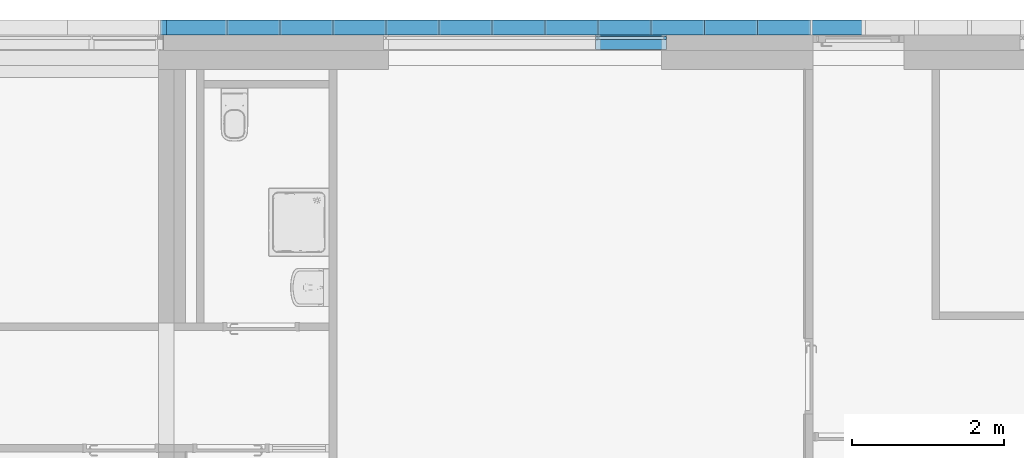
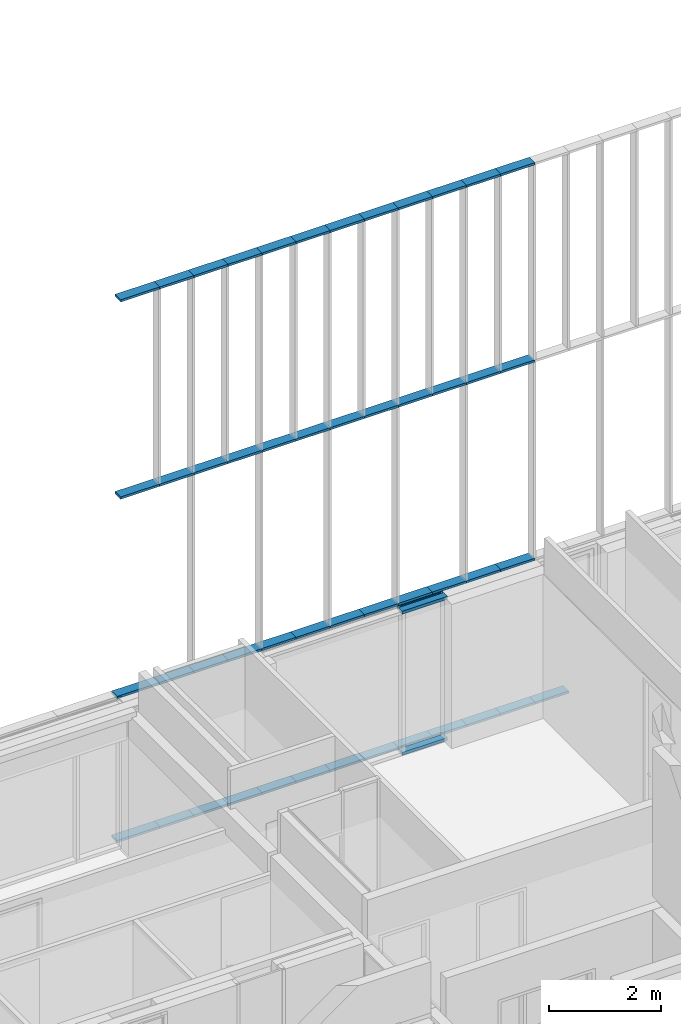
# One storey, part 40 of 240: 52 members, 2 elements without a shape of their own.
"""IFC2X3 building model written with IfcOpenShell, lengths in centimetres."""

from ifc_helpers import new_model, entity, si_unit, converted_unit, derived_unit, direction, frame, origin, origin_2d_with_axis, place, context, subcontext, project, spatial, polyline, rectangle, outline, extrude, source, transform, mapped, material, type_object, type_shapes, element, aggregate, save


model = new_model("IFC2X3")

# Units and contexts
model_context = context("Model", 3, precision=0.001, world=origin(), true_north=direction((6.12303176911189e-17, 1.0)))
body_context = subcontext(model_context, "Body", "Model", "MODEL_VIEW")
ifc_project = project(units=[si_unit("LENGTHUNIT", "METRE", prefix="CENTI"), si_unit("AREAUNIT", "SQUARE_METRE"), si_unit("VOLUMEUNIT", "CUBIC_METRE"), converted_unit("PLANEANGLEUNIT", "DEGREE", entity("IfcRatioMeasure", 0.0174532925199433), si_unit("PLANEANGLEUNIT", "RADIAN"), dimensions=[0, 0, 0, 0, 0, 0, 0]), si_unit("MASSUNIT", "GRAM", prefix="KILO"), derived_unit("MASSDENSITYUNIT", [(si_unit("MASSUNIT", "GRAM", prefix="KILO"), 1), (si_unit("LENGTHUNIT", "METRE"), -3)]), si_unit("TIMEUNIT", "SECOND"), si_unit("FREQUENCYUNIT", "HERTZ"), si_unit("THERMODYNAMICTEMPERATUREUNIT", "DEGREE_CELSIUS"), derived_unit("THERMALTRANSMITTANCEUNIT", [(si_unit("MASSUNIT", "GRAM", prefix="KILO"), 1), (si_unit("THERMODYNAMICTEMPERATUREUNIT", "KELVIN"), -1), (si_unit("TIMEUNIT", "SECOND"), -3)]), derived_unit("VOLUMETRICFLOWRATEUNIT", [(si_unit("LENGTHUNIT", "METRE"), 3), (si_unit("TIMEUNIT", "SECOND"), -1)]), si_unit("ELECTRICCURRENTUNIT", "AMPERE"), si_unit("ELECTRICVOLTAGEUNIT", "VOLT"), si_unit("POWERUNIT", "WATT"), si_unit("FORCEUNIT", "NEWTON", prefix="KILO"), si_unit("ILLUMINANCEUNIT", "LUX"), si_unit("LUMINOUSFLUXUNIT", "LUMEN"), si_unit("LUMINOUSINTENSITYUNIT", "CANDELA"), derived_unit("USERDEFINED", [(si_unit("MASSUNIT", "GRAM", prefix="KILO"), -1), (si_unit("LENGTHUNIT", "METRE"), -2), (si_unit("TIMEUNIT", "SECOND"), 3), (si_unit("LUMINOUSFLUXUNIT", "LUMEN"), 1)]), derived_unit("LINEARVELOCITYUNIT", [(si_unit("LENGTHUNIT", "METRE"), 1), (si_unit("TIMEUNIT", "SECOND"), -1)]), si_unit("PRESSUREUNIT", "PASCAL"), derived_unit("USERDEFINED", [(si_unit("LENGTHUNIT", "METRE"), -2), (si_unit("MASSUNIT", "GRAM", prefix="KILO"), 1), (si_unit("TIMEUNIT", "SECOND"), -2)])], contexts=[model_context])

# Site, building, storey
site_placement = place(None, frame((-2781.94577612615, 7442.24238424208, 0.0)))
site = spatial("IfcSite", under=ifc_project, at=site_placement, Name="Default", CompositionType="ELEMENT")
building_placement = place(site_placement, origin())
building = spatial("IfcBuilding", under=site, at=building_placement, CompositionType="ELEMENT")
storey_placement = place(building_placement, origin())
storey = spatial("IfcBuildingStorey", under=building, at=storey_placement, Name="N00 - COO", CompositionType="ELEMENT", Elevation=0.0)

# Curtain wall, members
curtain_wall_type_1 = type_object("IfcCurtainWallType", Name="Mur-rideau:07 - mur rideau trame 90 cm", PredefinedType="NOTDEFINED")
curtain_wall_1_placement = place(building_placement, origin())
curtain_wall_1 = element("IfcCurtainWall", 1, at=curtain_wall_1_placement, inside=storey, type_object=curtain_wall_type_1, Name="Mur-rideau:07 - mur rideau trame 90 cm", ObjectType="Mur-rideau:07 - mur rideau trame 90 cm")
ifc_material = material(Name="Aluminium")
member_type_1 = type_object("IfcMemberType", Name="150 x 25mm Détails", PredefinedType="MEMBER")
shared_shape_1 = source(origin(), body_context, "Body", "SweptSolid", [
    extrude(outline(polyline([(-13.3333333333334, -3.24999999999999), (0.166666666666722, -3.24999999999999), (0.166666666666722, -0.868749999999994), (3.66666666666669, -0.868749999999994), (3.66666666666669, -3.25), (5.66666666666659, -3.25), (5.66666666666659, 3.24999999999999), (3.66666666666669, 3.24999999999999), (3.66666666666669, 0.86874999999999), (0.166666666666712, 0.86874999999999), (0.166666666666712, 3.25000000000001), (-13.3333333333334, 3.25000000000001), (-13.3333333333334, -3.24999999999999)])), frame((-3.24999999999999, 1.96666666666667, -93.25000003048), z_axis=(0.0, 0.0, 1.0), x_axis=(0.0, -1.0, 0.0)), (0.0, 0.0, 1.0), 93.25000003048),
])
type_shapes(member_type_1, [shared_shape_1])
member_1_placement = place(building_placement, frame((-7852.74987760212, 26.2000000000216, 0.0), z_axis=(-1.0, 0.0, 0.0), x_axis=(0.0, 0.0, -1.0)))
member_1 = element("IfcMember", 2, at=member_1_placement, type_object=member_type_1, material=ifc_material, Name="Meneau rectangulaire:150 x 25mm Détails", ObjectType="Meneau rectangulaire:150 x 25mm Détails", context=body_context, shape_type="MappedRepresentation", body=[
    mapped(shared_shape_1, transform((0.0, 0.0, 0.0), scale=1.0)),
])
member_type_2 = type_object("IfcMemberType", Name="150 x 25mm Détails", PredefinedType="MEMBER")
shared_shape_2 = source(origin(), body_context, "Body", "SweptSolid", [
    extrude(outline(polyline([(-13.3333333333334, -3.25000000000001), (0.166666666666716, -3.25000000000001), (0.166666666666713, -0.86874999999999), (3.66666666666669, -0.86874999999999), (3.66666666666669, -3.24999999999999), (5.66666666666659, -3.24999999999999), (5.66666666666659, 3.25), (3.66666666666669, 3.25), (3.66666666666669, 0.868749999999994), (0.166666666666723, 0.868749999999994), (0.166666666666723, 3.25000000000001), (-13.3333333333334, 3.24999999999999), (-13.3333333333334, -3.25000000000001)])), frame((-3.24999999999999, 1.96666666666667, -93.2500000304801), z_axis=(0.0, 0.0, 1.0), x_axis=(0.0, -1.0, 0.0)), (0.0, 0.0, 1.0), 93.25000003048),
])
type_shapes(member_type_2, [shared_shape_2])
member_2_placement = place(building_placement, frame((-7759.49987757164, 26.2000000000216, 313.0), z_axis=(1.0, 0.0, 0.0), x_axis=(0.0, 0.0, 1.0)))
member_2 = element("IfcMember", 3, at=member_2_placement, type_object=member_type_2, material=ifc_material, Name="Meneau rectangulaire:150 x 25mm Détails", ObjectType="Meneau rectangulaire:150 x 25mm Détails", context=body_context, shape_type="MappedRepresentation", body=[
    mapped(shared_shape_2, transform((0.0, 0.0, 0.0), scale=1.0)),
])
aggregate(curtain_wall_1, [member_1, member_2])

curtain_wall_type_2 = type_object("IfcCurtainWallType", Name="Mur-rideau:Epines - 200x50mm", PredefinedType="NOTDEFINED")
curtain_wall_2_placement = place(building_placement, origin())
curtain_wall_2 = element("IfcCurtainWall", 4, at=curtain_wall_2_placement, inside=storey, type_object=curtain_wall_type_2, Name="Mur-rideau:Epines - 200x50mm", ObjectType="Mur-rideau:Epines - 200x50mm")
member_type_3 = type_object("IfcMemberType", Name="200x50 mm", PredefinedType="MEMBER")
shared_shape_3 = source(origin(), body_context, "Body", "SweptSolid", [
    extrude(rectangle(XDim=20.0, YDim=5.0, at=origin_2d_with_axis()), frame((-2.5, 0.0, -7.50000000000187), z_axis=(0.0, 0.0, 1.0), x_axis=(0.0, -1.0, 0.0)), (0.0, 0.0, 1.0), 7.50000000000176),
])
type_shapes(member_type_3, [shared_shape_3])
member_3_placement = place(building_placement, frame((-8419.49987766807, 40.0, 316.500000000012), z_axis=(1.0, 0.0, 0.0), x_axis=(0.0, 0.0, 1.0)))
member_3 = element("IfcMember", 5, at=member_3_placement, type_object=member_type_3, material=ifc_material, Name="Meneau rectangulaire:200x50 mm", ObjectType="Meneau rectangulaire:200x50 mm", context=body_context, shape_type="MappedRepresentation", body=[
    mapped(shared_shape_3, transform((0.0, 0.0, 0.0), scale=1.0)),
])
member_type_4 = type_object("IfcMemberType", Name="200x50 mm", PredefinedType="MEMBER")
shared_shape_4 = source(origin(), body_context, "Body", "SweptSolid", [
    extrude(rectangle(XDim=20.0, YDim=5.0, at=origin_2d_with_axis()), frame((-2.5, 0.0, -70.0), z_axis=(0.0, 0.0, 1.0), x_axis=(0.0, -1.0, 0.0)), (0.0, 0.0, 1.0), 70.0000000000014),
])
type_shapes(member_type_4, [shared_shape_4])
member_4_placement = place(building_placement, frame((-7569.49987760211, 40.0, 1176.0), z_axis=(1.0, 0.0, 0.0), x_axis=(0.0, 0.0, 1.0)))
member_4 = element("IfcMember", 6, at=member_4_placement, type_object=member_type_4, material=ifc_material, Name="Meneau rectangulaire:200x50 mm", ObjectType="Meneau rectangulaire:200x50 mm", context=body_context, shape_type="MappedRepresentation", body=[
    mapped(shared_shape_4, transform((0.0, 0.0, 0.0), scale=1.0)),
])
member_5_placement = place(building_placement, frame((-7849.49987760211, 40.0, 1176.0), z_axis=(1.0, 0.0, 0.0), x_axis=(0.0, 0.0, 1.0)))
member_5 = element("IfcMember", 7, at=member_5_placement, type_object=member_type_4, material=ifc_material, Name="Meneau rectangulaire:200x50 mm", ObjectType="Meneau rectangulaire:200x50 mm", context=body_context, shape_type="MappedRepresentation", body=[
    mapped(shared_shape_4, transform((0.0, 0.0, 0.0), scale=1.0)),
])
member_6_placement = place(building_placement, frame((-8129.4998776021, 40.0, 1176.0), z_axis=(1.0, 0.0, 0.0), x_axis=(0.0, 0.0, 1.0)))
member_6 = element("IfcMember", 8, at=member_6_placement, type_object=member_type_4, material=ifc_material, Name="Meneau rectangulaire:200x50 mm", ObjectType="Meneau rectangulaire:200x50 mm", context=body_context, shape_type="MappedRepresentation", body=[
    mapped(shared_shape_4, transform((0.0, 0.0, 0.0), scale=1.0)),
])
member_7_placement = place(building_placement, frame((-7709.49987760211, 40.0, 1176.0), z_axis=(1.0, 0.0, 0.0), x_axis=(0.0, 0.0, 1.0)))
member_7 = element("IfcMember", 9, at=member_7_placement, type_object=member_type_4, material=ifc_material, Name="Meneau rectangulaire:200x50 mm", ObjectType="Meneau rectangulaire:200x50 mm", context=body_context, shape_type="MappedRepresentation", body=[
    mapped(shared_shape_4, transform((0.0, 0.0, 0.0), scale=1.0)),
])
member_8_placement = place(building_placement, frame((-7989.4998776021, 40.0, 1176.0), z_axis=(1.0, 0.0, 0.0), x_axis=(0.0, 0.0, 1.0)))
member_8 = element("IfcMember", 10, at=member_8_placement, type_object=member_type_4, material=ifc_material, Name="Meneau rectangulaire:200x50 mm", ObjectType="Meneau rectangulaire:200x50 mm", context=body_context, shape_type="MappedRepresentation", body=[
    mapped(shared_shape_4, transform((0.0, 0.0, 0.0), scale=1.0)),
])
member_9_placement = place(building_placement, frame((-8269.4998776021, 40.0, 1176.0), z_axis=(1.0, 0.0, 0.0), x_axis=(0.0, 0.0, 1.0)))
member_9 = element("IfcMember", 11, at=member_9_placement, type_object=member_type_4, material=ifc_material, Name="Meneau rectangulaire:200x50 mm", ObjectType="Meneau rectangulaire:200x50 mm", context=body_context, shape_type="MappedRepresentation", body=[
    mapped(shared_shape_4, transform((0.0, 0.0, 0.0), scale=1.0)),
])
member_10_placement = place(building_placement, frame((-7639.49987760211, 40.0, 1176.0), z_axis=(1.0, 0.0, 0.0), x_axis=(0.0, 0.0, 1.0)))
member_10 = element("IfcMember", 12, at=member_10_placement, type_object=member_type_4, material=ifc_material, Name="Meneau rectangulaire:200x50 mm", ObjectType="Meneau rectangulaire:200x50 mm", context=body_context, shape_type="MappedRepresentation", body=[
    mapped(shared_shape_4, transform((0.0, 0.0, 0.0), scale=1.0)),
])
member_11_placement = place(building_placement, frame((-7779.49987760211, 40.0, 1176.0), z_axis=(1.0, 0.0, 0.0), x_axis=(0.0, 0.0, 1.0)))
member_11 = element("IfcMember", 13, at=member_11_placement, type_object=member_type_4, material=ifc_material, Name="Meneau rectangulaire:200x50 mm", ObjectType="Meneau rectangulaire:200x50 mm", context=body_context, shape_type="MappedRepresentation", body=[
    mapped(shared_shape_4, transform((0.0, 0.0, 0.0), scale=1.0)),
])
member_12_placement = place(building_placement, frame((-7919.49987760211, 40.0, 1176.0), z_axis=(1.0, 0.0, 0.0), x_axis=(0.0, 0.0, 1.0)))
member_12 = element("IfcMember", 14, at=member_12_placement, type_object=member_type_4, material=ifc_material, Name="Meneau rectangulaire:200x50 mm", ObjectType="Meneau rectangulaire:200x50 mm", context=body_context, shape_type="MappedRepresentation", body=[
    mapped(shared_shape_4, transform((0.0, 0.0, 0.0), scale=1.0)),
])
member_13_placement = place(building_placement, frame((-8059.4998776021, 40.0, 1176.0), z_axis=(1.0, 0.0, 0.0), x_axis=(0.0, 0.0, 1.0)))
member_13 = element("IfcMember", 15, at=member_13_placement, type_object=member_type_4, material=ifc_material, Name="Meneau rectangulaire:200x50 mm", ObjectType="Meneau rectangulaire:200x50 mm", context=body_context, shape_type="MappedRepresentation", body=[
    mapped(shared_shape_4, transform((0.0, 0.0, 0.0), scale=1.0)),
])
member_14_placement = place(building_placement, frame((-8199.49987760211, 40.0, 1176.0), z_axis=(1.0, 0.0, 0.0), x_axis=(0.0, 0.0, 1.0)))
member_14 = element("IfcMember", 16, at=member_14_placement, type_object=member_type_4, material=ifc_material, Name="Meneau rectangulaire:200x50 mm", ObjectType="Meneau rectangulaire:200x50 mm", context=body_context, shape_type="MappedRepresentation", body=[
    mapped(shared_shape_4, transform((0.0, 0.0, 0.0), scale=1.0)),
])
member_type_5 = type_object("IfcMemberType", Name="200x50 mm", PredefinedType="MEMBER")
shared_shape_5 = source(origin(), body_context, "Body", "SweptSolid", [
    extrude(rectangle(XDim=20.0, YDim=5.0, at=origin_2d_with_axis()), frame((-2.5, 0.0, -70.0), z_axis=(0.0, 0.0, 1.0), x_axis=(0.0, -1.0, 0.0)), (0.0, 0.0, 1.0), 70.0000000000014),
])
type_shapes(member_type_5, [shared_shape_5])
member_15_placement = place(building_placement, frame((-7569.49987760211, 40.0, 0.0), z_axis=(-1.0, 0.0, 0.0), x_axis=(0.0, 0.0, -1.0)))
member_15 = element("IfcMember", 17, at=member_15_placement, type_object=member_type_5, material=ifc_material, Name="Meneau rectangulaire:200x50 mm", ObjectType="Meneau rectangulaire:200x50 mm", context=body_context, shape_type="MappedRepresentation", body=[
    mapped(shared_shape_5, transform((0.0, 0.0, 0.0), scale=1.0)),
])
member_16_placement = place(building_placement, frame((-7849.49987760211, 40.0, 0.0), z_axis=(-1.0, 0.0, 0.0), x_axis=(0.0, 0.0, -1.0)))
member_16 = element("IfcMember", 18, at=member_16_placement, type_object=member_type_5, material=ifc_material, Name="Meneau rectangulaire:200x50 mm", ObjectType="Meneau rectangulaire:200x50 mm", context=body_context, shape_type="MappedRepresentation", body=[
    mapped(shared_shape_5, transform((0.0, 0.0, 0.0), scale=1.0)),
])
member_17_placement = place(building_placement, frame((-8129.4998776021, 40.0, 0.0), z_axis=(-1.0, 0.0, 0.0), x_axis=(0.0, 0.0, -1.0)))
member_17 = element("IfcMember", 19, at=member_17_placement, type_object=member_type_5, material=ifc_material, Name="Meneau rectangulaire:200x50 mm", ObjectType="Meneau rectangulaire:200x50 mm", context=body_context, shape_type="MappedRepresentation", body=[
    mapped(shared_shape_5, transform((0.0, 0.0, 0.0), scale=1.0)),
])
member_type_6 = type_object("IfcMemberType", Name="200x50 mm", PredefinedType="MEMBER")
shared_shape_6 = source(origin(), body_context, "Body", "SweptSolid", [
    extrude(rectangle(XDim=20.0, YDim=5.0, at=origin_2d_with_axis()), frame((0.0, 0.0, -70.0), z_axis=(0.0, 0.0, 1.0), x_axis=(0.0, -1.0, 0.0)), (0.0, 0.0, 1.0), 70.0000000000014),
])
type_shapes(member_type_6, [shared_shape_6])
member_18_placement = place(building_placement, frame((-7779.4998776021, 40.0, 315.0), z_axis=(1.0, 0.0, 0.0), x_axis=(0.0, 0.0, 1.0)))
member_18 = element("IfcMember", 20, at=member_18_placement, type_object=member_type_6, material=ifc_material, Name="Meneau rectangulaire:200x50 mm", ObjectType="Meneau rectangulaire:200x50 mm", context=body_context, shape_type="MappedRepresentation", body=[
    mapped(shared_shape_6, transform((0.0, 0.0, 0.0), scale=1.0)),
])
member_19_placement = place(building_placement, frame((-8059.4998776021, 40.0, 315.0), z_axis=(1.0, 0.0, 0.0), x_axis=(0.0, 0.0, 1.0)))
member_19 = element("IfcMember", 21, at=member_19_placement, type_object=member_type_6, material=ifc_material, Name="Meneau rectangulaire:200x50 mm", ObjectType="Meneau rectangulaire:200x50 mm", context=body_context, shape_type="MappedRepresentation", body=[
    mapped(shared_shape_6, transform((0.0, 0.0, 0.0), scale=1.0)),
])
member_20_placement = place(building_placement, frame((-7639.49987760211, 40.0, 315.0), z_axis=(1.0, 0.0, 0.0), x_axis=(0.0, 0.0, 1.0)))
member_20 = element("IfcMember", 22, at=member_20_placement, type_object=member_type_6, material=ifc_material, Name="Meneau rectangulaire:200x50 mm", ObjectType="Meneau rectangulaire:200x50 mm", context=body_context, shape_type="MappedRepresentation", body=[
    mapped(shared_shape_6, transform((0.0, 0.0, 0.0), scale=1.0)),
])
member_21_placement = place(building_placement, frame((-7919.49987760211, 40.0, 315.0), z_axis=(1.0, 0.0, 0.0), x_axis=(0.0, 0.0, 1.0)))
member_21 = element("IfcMember", 23, at=member_21_placement, type_object=member_type_6, material=ifc_material, Name="Meneau rectangulaire:200x50 mm", ObjectType="Meneau rectangulaire:200x50 mm", context=body_context, shape_type="MappedRepresentation", body=[
    mapped(shared_shape_6, transform((0.0, 0.0, 0.0), scale=1.0)),
])
member_22_placement = place(building_placement, frame((-8199.49987760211, 40.0, 315.0), z_axis=(1.0, 0.0, 0.0), x_axis=(0.0, 0.0, 1.0)))
member_22 = element("IfcMember", 24, at=member_22_placement, type_object=member_type_6, material=ifc_material, Name="Meneau rectangulaire:200x50 mm", ObjectType="Meneau rectangulaire:200x50 mm", context=body_context, shape_type="MappedRepresentation", body=[
    mapped(shared_shape_6, transform((0.0, 0.0, 0.0), scale=1.0)),
])
member_type_7 = type_object("IfcMemberType", Name="200x50 mm", PredefinedType="MEMBER")
shared_shape_7 = source(origin(), body_context, "Body", "SweptSolid", [
    extrude(rectangle(XDim=20.0, YDim=5.0, at=origin_2d_with_axis()), frame((0.0, 0.0, -70.0), z_axis=(0.0, 0.0, 1.0), x_axis=(0.0, -1.0, 0.0)), (0.0, 0.0, 1.0), 70.0000000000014),
])
type_shapes(member_type_7, [shared_shape_7])
member_23_placement = place(building_placement, frame((-7779.4998776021, 40.0, 745.5), z_axis=(1.0, 0.0, 0.0), x_axis=(0.0, 0.0, 1.0)))
member_23 = element("IfcMember", 25, at=member_23_placement, type_object=member_type_7, material=ifc_material, Name="Meneau rectangulaire:200x50 mm", ObjectType="Meneau rectangulaire:200x50 mm", context=body_context, shape_type="MappedRepresentation", body=[
    mapped(shared_shape_7, transform((0.0, 0.0, 0.0), scale=1.0)),
])
member_24_placement = place(building_placement, frame((-8059.4998776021, 40.0, 745.5), z_axis=(1.0, 0.0, 0.0), x_axis=(0.0, 0.0, 1.0)))
member_24 = element("IfcMember", 26, at=member_24_placement, type_object=member_type_7, material=ifc_material, Name="Meneau rectangulaire:200x50 mm", ObjectType="Meneau rectangulaire:200x50 mm", context=body_context, shape_type="MappedRepresentation", body=[
    mapped(shared_shape_7, transform((0.0, 0.0, 0.0), scale=1.0)),
])
member_25_placement = place(building_placement, frame((-7639.49987760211, 40.0, 745.5), z_axis=(1.0, 0.0, 0.0), x_axis=(0.0, 0.0, 1.0)))
member_25 = element("IfcMember", 27, at=member_25_placement, type_object=member_type_7, material=ifc_material, Name="Meneau rectangulaire:200x50 mm", ObjectType="Meneau rectangulaire:200x50 mm", context=body_context, shape_type="MappedRepresentation", body=[
    mapped(shared_shape_7, transform((0.0, 0.0, 0.0), scale=1.0)),
])
member_26_placement = place(building_placement, frame((-7919.49987760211, 40.0, 745.5), z_axis=(1.0, 0.0, 0.0), x_axis=(0.0, 0.0, 1.0)))
member_26 = element("IfcMember", 28, at=member_26_placement, type_object=member_type_7, material=ifc_material, Name="Meneau rectangulaire:200x50 mm", ObjectType="Meneau rectangulaire:200x50 mm", context=body_context, shape_type="MappedRepresentation", body=[
    mapped(shared_shape_7, transform((0.0, 0.0, 0.0), scale=1.0)),
])
member_27_placement = place(building_placement, frame((-8199.49987760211, 40.0, 745.5), z_axis=(1.0, 0.0, 0.0), x_axis=(0.0, 0.0, 1.0)))
member_27 = element("IfcMember", 29, at=member_27_placement, type_object=member_type_7, material=ifc_material, Name="Meneau rectangulaire:200x50 mm", ObjectType="Meneau rectangulaire:200x50 mm", context=body_context, shape_type="MappedRepresentation", body=[
    mapped(shared_shape_7, transform((0.0, 0.0, 0.0), scale=1.0)),
])
member_28_placement = place(building_placement, frame((-7569.49987760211, 40.0, 745.5), z_axis=(1.0, 0.0, 0.0), x_axis=(0.0, 0.0, 1.0)))
member_28 = element("IfcMember", 30, at=member_28_placement, type_object=member_type_7, material=ifc_material, Name="Meneau rectangulaire:200x50 mm", ObjectType="Meneau rectangulaire:200x50 mm", context=body_context, shape_type="MappedRepresentation", body=[
    mapped(shared_shape_7, transform((0.0, 0.0, 0.0), scale=1.0)),
])
member_29_placement = place(building_placement, frame((-7709.49987760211, 40.0, 745.5), z_axis=(1.0, 0.0, 0.0), x_axis=(0.0, 0.0, 1.0)))
member_29 = element("IfcMember", 31, at=member_29_placement, type_object=member_type_7, material=ifc_material, Name="Meneau rectangulaire:200x50 mm", ObjectType="Meneau rectangulaire:200x50 mm", context=body_context, shape_type="MappedRepresentation", body=[
    mapped(shared_shape_7, transform((0.0, 0.0, 0.0), scale=1.0)),
])
member_30_placement = place(building_placement, frame((-7849.49987760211, 40.0, 745.5), z_axis=(1.0, 0.0, 0.0), x_axis=(0.0, 0.0, 1.0)))
member_30 = element("IfcMember", 32, at=member_30_placement, type_object=member_type_7, material=ifc_material, Name="Meneau rectangulaire:200x50 mm", ObjectType="Meneau rectangulaire:200x50 mm", context=body_context, shape_type="MappedRepresentation", body=[
    mapped(shared_shape_7, transform((0.0, 0.0, 0.0), scale=1.0)),
])
member_31_placement = place(building_placement, frame((-7989.4998776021, 40.0, 745.5), z_axis=(1.0, 0.0, 0.0), x_axis=(0.0, 0.0, 1.0)))
member_31 = element("IfcMember", 33, at=member_31_placement, type_object=member_type_7, material=ifc_material, Name="Meneau rectangulaire:200x50 mm", ObjectType="Meneau rectangulaire:200x50 mm", context=body_context, shape_type="MappedRepresentation", body=[
    mapped(shared_shape_7, transform((0.0, 0.0, 0.0), scale=1.0)),
])
member_32_placement = place(building_placement, frame((-8129.4998776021, 40.0, 745.5), z_axis=(1.0, 0.0, 0.0), x_axis=(0.0, 0.0, 1.0)))
member_32 = element("IfcMember", 34, at=member_32_placement, type_object=member_type_7, material=ifc_material, Name="Meneau rectangulaire:200x50 mm", ObjectType="Meneau rectangulaire:200x50 mm", context=body_context, shape_type="MappedRepresentation", body=[
    mapped(shared_shape_7, transform((0.0, 0.0, 0.0), scale=1.0)),
])
member_33_placement = place(building_placement, frame((-8269.4998776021, 40.0, 745.5), z_axis=(1.0, 0.0, 0.0), x_axis=(0.0, 0.0, 1.0)))
member_33 = element("IfcMember", 35, at=member_33_placement, type_object=member_type_7, material=ifc_material, Name="Meneau rectangulaire:200x50 mm", ObjectType="Meneau rectangulaire:200x50 mm", context=body_context, shape_type="MappedRepresentation", body=[
    mapped(shared_shape_7, transform((0.0, 0.0, 0.0), scale=1.0)),
])
member_type_8 = type_object("IfcMemberType", Name="200x50 mm", PredefinedType="MEMBER")
shared_shape_8 = source(origin(), body_context, "Body", "SweptSolid", [
    extrude(rectangle(XDim=20.0, YDim=5.0, at=origin_2d_with_axis()), frame((-2.5, 0.0, -70.0), z_axis=(0.0, 0.0, 1.0), x_axis=(0.0, -1.0, 0.0)), (0.0, 0.0, 1.0), 69.9999999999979),
])
type_shapes(member_type_8, [shared_shape_8])
member_34_placement = place(building_placement, frame((-7709.49987760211, 40.0, 0.0), z_axis=(-1.0, 0.0, 0.0), x_axis=(0.0, 0.0, -1.0)))
member_34 = element("IfcMember", 36, at=member_34_placement, type_object=member_type_8, material=ifc_material, Name="Meneau rectangulaire:200x50 mm", ObjectType="Meneau rectangulaire:200x50 mm", context=body_context, shape_type="MappedRepresentation", body=[
    mapped(shared_shape_8, transform((0.0, 0.0, 0.0), scale=1.0)),
])
member_35_placement = place(building_placement, frame((-7989.4998776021, 40.0, 0.0), z_axis=(-1.0, 0.0, 0.0), x_axis=(0.0, 0.0, -1.0)))
member_35 = element("IfcMember", 37, at=member_35_placement, type_object=member_type_8, material=ifc_material, Name="Meneau rectangulaire:200x50 mm", ObjectType="Meneau rectangulaire:200x50 mm", context=body_context, shape_type="MappedRepresentation", body=[
    mapped(shared_shape_8, transform((0.0, 0.0, 0.0), scale=1.0)),
])
member_36_placement = place(building_placement, frame((-8269.4998776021, 40.0, 0.0), z_axis=(-1.0, 0.0, 0.0), x_axis=(0.0, 0.0, -1.0)))
member_36 = element("IfcMember", 38, at=member_36_placement, type_object=member_type_8, material=ifc_material, Name="Meneau rectangulaire:200x50 mm", ObjectType="Meneau rectangulaire:200x50 mm", context=body_context, shape_type="MappedRepresentation", body=[
    mapped(shared_shape_8, transform((0.0, 0.0, 0.0), scale=1.0)),
])
member_37_placement = place(building_placement, frame((-7779.49987760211, 40.0, 0.0), z_axis=(-1.0, 0.0, 0.0), x_axis=(0.0, 0.0, -1.0)))
member_37 = element("IfcMember", 39, at=member_37_placement, type_object=member_type_8, material=ifc_material, Name="Meneau rectangulaire:200x50 mm", ObjectType="Meneau rectangulaire:200x50 mm", context=body_context, shape_type="MappedRepresentation", body=[
    mapped(shared_shape_8, transform((0.0, 0.0, 0.0), scale=1.0)),
])
member_38_placement = place(building_placement, frame((-8059.4998776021, 40.0, 0.0), z_axis=(-1.0, 0.0, 0.0), x_axis=(0.0, 0.0, -1.0)))
member_38 = element("IfcMember", 40, at=member_38_placement, type_object=member_type_8, material=ifc_material, Name="Meneau rectangulaire:200x50 mm", ObjectType="Meneau rectangulaire:200x50 mm", context=body_context, shape_type="MappedRepresentation", body=[
    mapped(shared_shape_8, transform((0.0, 0.0, 0.0), scale=1.0)),
])
member_39_placement = place(building_placement, frame((-8339.4998776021, 40.0, 0.0), z_axis=(-1.0, 0.0, 0.0), x_axis=(0.0, 0.0, -1.0)))
member_39 = element("IfcMember", 41, at=member_39_placement, type_object=member_type_8, material=ifc_material, Name="Meneau rectangulaire:200x50 mm", ObjectType="Meneau rectangulaire:200x50 mm", context=body_context, shape_type="MappedRepresentation", body=[
    mapped(shared_shape_8, transform((0.0, 0.0, 0.0), scale=1.0)),
])
member_type_9 = type_object("IfcMemberType", Name="200x50 mm", PredefinedType="MEMBER")
shared_shape_9 = source(origin(), body_context, "Body", "SweptSolid", [
    extrude(rectangle(XDim=20.0, YDim=5.0, at=origin_2d_with_axis()), frame((0.0, 0.0, -70.0), z_axis=(0.0, 0.0, 1.0), x_axis=(0.0, -1.0, 0.0)), (0.0, 0.0, 1.0), 70.0000000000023),
])
type_shapes(member_type_9, [shared_shape_9])
member_40_placement = place(building_placement, frame((-7569.49987760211, 40.0, 315.0), z_axis=(1.0, 0.0, 0.0), x_axis=(0.0, 0.0, 1.0)))
member_40 = element("IfcMember", 42, at=member_40_placement, type_object=member_type_9, material=ifc_material, Name="Meneau rectangulaire:200x50 mm", ObjectType="Meneau rectangulaire:200x50 mm", context=body_context, shape_type="MappedRepresentation", body=[
    mapped(shared_shape_9, transform((0.0, 0.0, 0.0), scale=1.0)),
])
member_41_placement = place(building_placement, frame((-7709.49987760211, 40.0, 315.0), z_axis=(1.0, 0.0, 0.0), x_axis=(0.0, 0.0, 1.0)))
member_41 = element("IfcMember", 43, at=member_41_placement, type_object=member_type_9, material=ifc_material, Name="Meneau rectangulaire:200x50 mm", ObjectType="Meneau rectangulaire:200x50 mm", context=body_context, shape_type="MappedRepresentation", body=[
    mapped(shared_shape_9, transform((0.0, 0.0, 0.0), scale=1.0)),
])
member_42_placement = place(building_placement, frame((-7849.49987760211, 40.0, 315.0), z_axis=(1.0, 0.0, 0.0), x_axis=(0.0, 0.0, 1.0)))
member_42 = element("IfcMember", 44, at=member_42_placement, type_object=member_type_9, material=ifc_material, Name="Meneau rectangulaire:200x50 mm", ObjectType="Meneau rectangulaire:200x50 mm", context=body_context, shape_type="MappedRepresentation", body=[
    mapped(shared_shape_9, transform((0.0, 0.0, 0.0), scale=1.0)),
])
member_43_placement = place(building_placement, frame((-7989.4998776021, 40.0, 315.0), z_axis=(1.0, 0.0, 0.0), x_axis=(0.0, 0.0, 1.0)))
member_43 = element("IfcMember", 45, at=member_43_placement, type_object=member_type_9, material=ifc_material, Name="Meneau rectangulaire:200x50 mm", ObjectType="Meneau rectangulaire:200x50 mm", context=body_context, shape_type="MappedRepresentation", body=[
    mapped(shared_shape_9, transform((0.0, 0.0, 0.0), scale=1.0)),
])
member_44_placement = place(building_placement, frame((-8129.4998776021, 40.0, 315.0), z_axis=(1.0, 0.0, 0.0), x_axis=(0.0, 0.0, 1.0)))
member_44 = element("IfcMember", 46, at=member_44_placement, type_object=member_type_9, material=ifc_material, Name="Meneau rectangulaire:200x50 mm", ObjectType="Meneau rectangulaire:200x50 mm", context=body_context, shape_type="MappedRepresentation", body=[
    mapped(shared_shape_9, transform((0.0, 0.0, 0.0), scale=1.0)),
])
member_45_placement = place(building_placement, frame((-8269.4998776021, 40.0, 315.0), z_axis=(1.0, 0.0, 0.0), x_axis=(0.0, 0.0, 1.0)))
member_45 = element("IfcMember", 47, at=member_45_placement, type_object=member_type_9, material=ifc_material, Name="Meneau rectangulaire:200x50 mm", ObjectType="Meneau rectangulaire:200x50 mm", context=body_context, shape_type="MappedRepresentation", body=[
    mapped(shared_shape_9, transform((0.0, 0.0, 0.0), scale=1.0)),
])
member_type_10 = type_object("IfcMemberType", Name="200x50 mm", PredefinedType="MEMBER")
shared_shape_10 = source(origin(), body_context, "Body", "SweptSolid", [
    extrude(rectangle(XDim=20.0, YDim=5.0, at=origin_2d_with_axis()), frame((-2.5, 0.0, -70.0), z_axis=(0.0, 0.0, 1.0), x_axis=(0.0, -1.0, 0.0)), (0.0, 0.0, 1.0), 70.0000000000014),
])
type_shapes(member_type_10, [shared_shape_10])
member_46_placement = place(building_placement, frame((-7639.49987760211, 40.0, 0.0), z_axis=(-1.0, 0.0, 0.0), x_axis=(0.0, 0.0, -1.0)))
member_46 = element("IfcMember", 48, at=member_46_placement, type_object=member_type_10, material=ifc_material, Name="Meneau rectangulaire:200x50 mm", ObjectType="Meneau rectangulaire:200x50 mm", context=body_context, shape_type="MappedRepresentation", body=[
    mapped(shared_shape_10, transform((0.0, 0.0, 0.0), scale=1.0)),
])
member_47_placement = place(building_placement, frame((-7919.49987760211, 40.0, 0.0), z_axis=(-1.0, 0.0, 0.0), x_axis=(0.0, 0.0, -1.0)))
member_47 = element("IfcMember", 49, at=member_47_placement, type_object=member_type_10, material=ifc_material, Name="Meneau rectangulaire:200x50 mm", ObjectType="Meneau rectangulaire:200x50 mm", context=body_context, shape_type="MappedRepresentation", body=[
    mapped(shared_shape_10, transform((0.0, 0.0, 0.0), scale=1.0)),
])
member_48_placement = place(building_placement, frame((-8199.49987760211, 40.0, 0.0), z_axis=(-1.0, 0.0, 0.0), x_axis=(0.0, 0.0, -1.0)))
member_48 = element("IfcMember", 50, at=member_48_placement, type_object=member_type_10, material=ifc_material, Name="Meneau rectangulaire:200x50 mm", ObjectType="Meneau rectangulaire:200x50 mm", context=body_context, shape_type="MappedRepresentation", body=[
    mapped(shared_shape_10, transform((0.0, 0.0, 0.0), scale=1.0)),
])
member_type_11 = type_object("IfcMemberType", Name="200x50 mm", PredefinedType="MEMBER")
shared_shape_11 = source(origin(), body_context, "Body", "SweptSolid", [
    extrude(rectangle(XDim=20.0, YDim=5.0, at=origin_2d_with_axis()), frame((-2.5, 0.0, -80.0), z_axis=(0.0, 0.0, 1.0), x_axis=(0.0, -1.0, 0.0)), (0.0, 0.0, 1.0), 80.0000000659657),
])
type_shapes(member_type_11, [shared_shape_11])
member_49_placement = place(building_placement, frame((-8339.4998776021, 40.0, 1176.0), z_axis=(1.0, 0.0, 0.0), x_axis=(0.0, 0.0, 1.0)))
member_49 = element("IfcMember", 51, at=member_49_placement, type_object=member_type_11, material=ifc_material, Name="Meneau rectangulaire:200x50 mm", ObjectType="Meneau rectangulaire:200x50 mm", context=body_context, shape_type="MappedRepresentation", body=[
    mapped(shared_shape_11, transform((0.0, 0.0, 0.0), scale=1.0)),
])
member_type_12 = type_object("IfcMemberType", Name="200x50 mm", PredefinedType="MEMBER")
shared_shape_12 = source(origin(), body_context, "Body", "SweptSolid", [
    extrude(rectangle(XDim=20.0, YDim=5.0, at=origin_2d_with_axis()), frame((-2.5, 0.0, -87.5000000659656), z_axis=(0.0, 0.0, 1.0), x_axis=(0.0, -1.0, 0.0)), (0.0, 0.0, 1.0), 87.5000000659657),
])
type_shapes(member_type_12, [shared_shape_12])
member_50_placement = place(building_placement, frame((-8426.99987766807, 40.0, 0.0), z_axis=(-1.0, 0.0, 0.0), x_axis=(0.0, 0.0, -1.0)))
member_50 = element("IfcMember", 52, at=member_50_placement, type_object=member_type_12, material=ifc_material, Name="Meneau rectangulaire:200x50 mm", ObjectType="Meneau rectangulaire:200x50 mm", context=body_context, shape_type="MappedRepresentation", body=[
    mapped(shared_shape_12, transform((0.0, 0.0, 0.0), scale=1.0)),
])
member_type_13 = type_object("IfcMemberType", Name="200x50 mm", PredefinedType="MEMBER")
shared_shape_13 = source(origin(), body_context, "Body", "SweptSolid", [
    extrude(rectangle(XDim=20.0, YDim=5.0, at=origin_2d_with_axis()), frame((0.0, 0.0, -87.500000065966), z_axis=(0.0, 0.0, 1.0), x_axis=(0.0, -1.0, 0.0)), (0.0, 0.0, 1.0), 87.5000000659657),
])
type_shapes(member_type_13, [shared_shape_13])
member_51_placement = place(building_placement, frame((-8339.49987760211, 40.0, 315.0), z_axis=(1.0, 0.0, 0.0), x_axis=(0.0, 0.0, 1.0)))
member_51 = element("IfcMember", 53, at=member_51_placement, type_object=member_type_13, material=ifc_material, Name="Meneau rectangulaire:200x50 mm", ObjectType="Meneau rectangulaire:200x50 mm", context=body_context, shape_type="MappedRepresentation", body=[
    mapped(shared_shape_13, transform((0.0, 0.0, 0.0), scale=1.0)),
])
member_type_14 = type_object("IfcMemberType", Name="200x50 mm", PredefinedType="MEMBER")
shared_shape_14 = source(origin(), body_context, "Body", "SweptSolid", [
    extrude(rectangle(XDim=20.0, YDim=5.0, at=origin_2d_with_axis()), frame((0.0, 0.0, -80.0), z_axis=(0.0, 0.0, 1.0), x_axis=(0.0, -1.0, 0.0)), (0.0, 0.0, 1.0), 80.0000000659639),
])
type_shapes(member_type_14, [shared_shape_14])
member_52_placement = place(building_placement, frame((-8339.4998776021, 40.0, 745.5), z_axis=(1.0, 0.0, 0.0), x_axis=(0.0, 0.0, 1.0)))
member_52 = element("IfcMember", 54, at=member_52_placement, type_object=member_type_14, material=ifc_material, Name="Meneau rectangulaire:200x50 mm", ObjectType="Meneau rectangulaire:200x50 mm", context=body_context, shape_type="MappedRepresentation", body=[
    mapped(shared_shape_14, transform((0.0, 0.0, 0.0), scale=1.0)),
])
aggregate(curtain_wall_2, [member_3, member_4, member_15, member_5, member_16, member_18, member_23, member_6, member_17, member_19, member_24, member_7, member_34, member_20, member_25, member_8, member_35, member_21, member_26, member_9, member_36, member_22, member_27, member_10, member_46, member_40, member_28, member_11, member_37, member_41, member_29, member_12, member_47, member_42, member_30, member_13, member_38, member_43, member_31, member_14, member_48, member_44, member_32, member_49, member_39, member_45, member_33, member_50, member_51, member_52])

save(model, "model.ifc")
